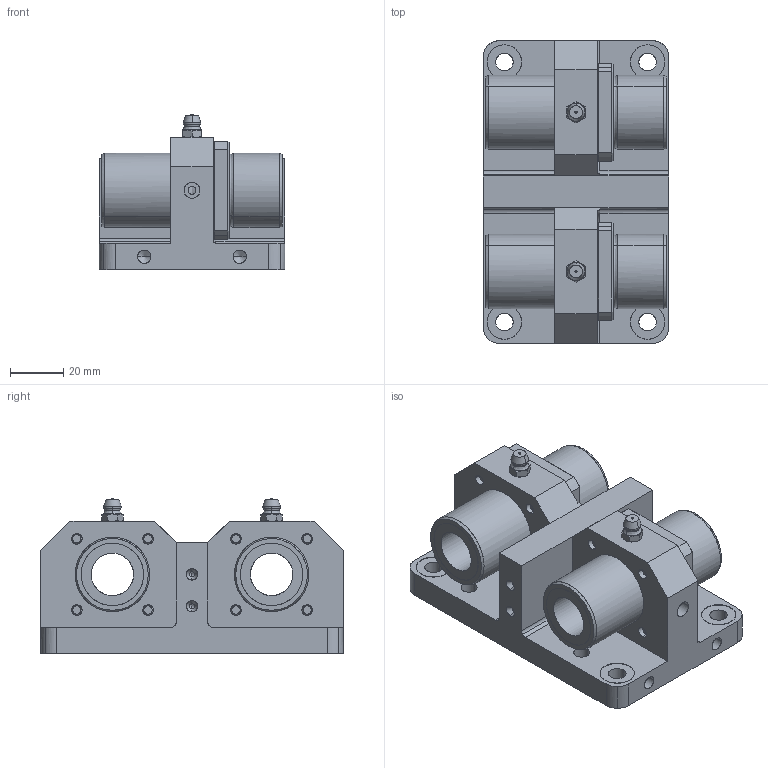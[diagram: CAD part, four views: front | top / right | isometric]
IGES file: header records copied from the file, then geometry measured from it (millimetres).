
Global section: file name: No Iges File Name specified; native system: AutoDesk Inventor R10; preprocessor: AutoDesk Inventor Iges Exporter R10; author: No Author specified; organization: No Organization specified; date: 20101227.094844; units: millimetre
Bounding box: 70 x 114 x 58.8 mm (x, y, z)
Surface area: 64836.7 mm2 (no closed solid volume)
Topology: 0 solids, 0 shells, 558 faces, 3806 edges, 3764 vertices
Faces by surface type: bspline 558
